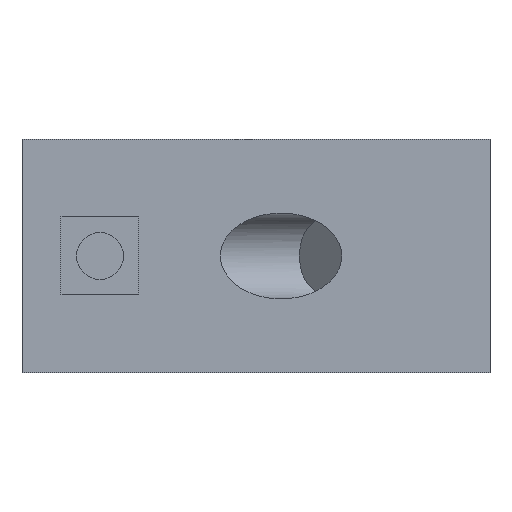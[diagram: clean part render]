
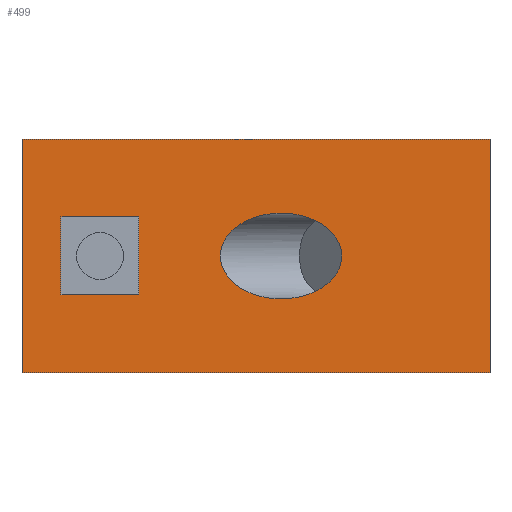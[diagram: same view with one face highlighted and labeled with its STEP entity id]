
A CAD part, front view. The second image highlights one B-rep face of the part: STEP entity #499.
In plain terms, the highlighted planar face has unit normal (0, -1, 0).
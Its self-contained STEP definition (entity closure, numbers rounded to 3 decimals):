
#140=CARTESIAN_POINT('',(7.778,0.,0.));
#141=VERTEX_POINT('',#140);
#142=CARTESIAN_POINT('',(0.,0.,0.));
#143=DIRECTION('',(0.0,1.0,0.0));
#144=DIRECTION('',(-1.0,0.0,0.0));
#145=AXIS2_PLACEMENT_3D('',#142,#143,#144);
#146=ELLIPSE('',#145,7.778,5.5);
#147=EDGE_CURVE('',#141,#141,#146,.T.);
#212=CARTESIAN_POINT('',(-19.713,0.,0.0));
#213=VERTEX_POINT('',#212);
#214=CARTESIAN_POINT('',(-23.213,0.,0.0));
#215=DIRECTION('',(0.0,1.0,0.0));
#216=DIRECTION('',(1.0,0.0,0.0));
#217=AXIS2_PLACEMENT_3D('',#214,#215,#216);
#218=CIRCLE('',#217,3.5);
#219=EDGE_CURVE('',#213,#213,#218,.T.);
#229=CARTESIAN_POINT('',(-33.213,0.,15.));
#230=VERTEX_POINT('',#229);
#239=CARTESIAN_POINT('',(26.787,0.,15.));
#240=VERTEX_POINT('',#239);
#241=CARTESIAN_POINT('',(26.787,0.,15.));
#242=DIRECTION('',(-1.0,0.0,0.0));
#243=VECTOR('',#242,60.);
#244=LINE('',#241,#243);
#245=EDGE_CURVE('',#240,#230,#244,.T.);
#301=CARTESIAN_POINT('',(26.787,0.,-15.));
#302=VERTEX_POINT('',#301);
#318=CARTESIAN_POINT('',(26.787,0.,-15.));
#319=DIRECTION('',(0.0,0.0,1.0));
#320=VECTOR('',#319,30.);
#321=LINE('',#318,#320);
#322=EDGE_CURVE('',#302,#240,#321,.T.);
#458=CARTESIAN_POINT('',(-33.213,0.,-15.));
#459=VERTEX_POINT('',#458);
#466=CARTESIAN_POINT('',(-33.213,0.,15.));
#467=DIRECTION('',(0.0,0.0,-1.0));
#468=VECTOR('',#467,30.);
#469=LINE('',#466,#468);
#470=EDGE_CURVE('',#230,#459,#469,.T.);
#477=CARTESIAN_POINT('',(-33.213,0.,0.0));
#478=DIRECTION('',(0.0,-1.0,0.0));
#479=DIRECTION('',(0.0,0.0,-1.0));
#480=AXIS2_PLACEMENT_3D('',#477,#478,#479);
#481=PLANE('',#480);
#482=CARTESIAN_POINT('',(-33.213,0.,-15.));
#483=DIRECTION('',(1.0,0.0,0.0));
#484=VECTOR('',#483,60.);
#485=LINE('',#482,#484);
#486=EDGE_CURVE('',#459,#302,#485,.T.);
#487=ORIENTED_EDGE('',*,*,#486,.T.);
#488=ORIENTED_EDGE('',*,*,#322,.T.);
#489=ORIENTED_EDGE('',*,*,#245,.T.);
#490=ORIENTED_EDGE('',*,*,#470,.T.);
#491=EDGE_LOOP('',(#487,#488,#489,#490));
#492=FACE_OUTER_BOUND('',#491,.T.);
#493=ORIENTED_EDGE('',*,*,#147,.T.);
#494=EDGE_LOOP('',(#493));
#495=FACE_BOUND('',#494,.T.);
#496=ORIENTED_EDGE('',*,*,#219,.T.);
#497=EDGE_LOOP('',(#496));
#498=FACE_BOUND('',#497,.T.);
#499=ADVANCED_FACE('',(#492,#495,#498),#481,.T.);
